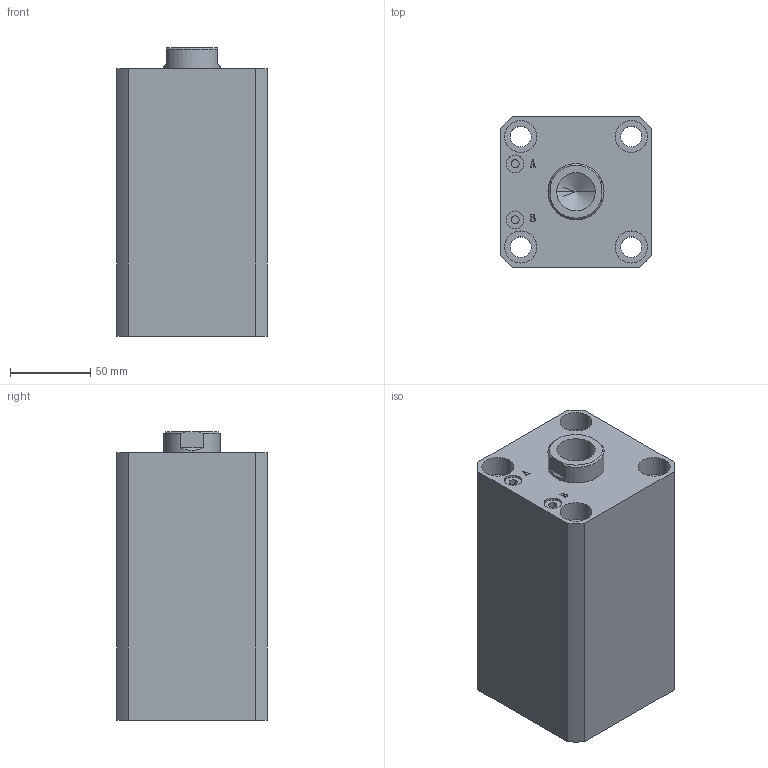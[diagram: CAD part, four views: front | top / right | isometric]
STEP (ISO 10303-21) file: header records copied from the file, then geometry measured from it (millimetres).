
FILE_DESCRIPTION (( 'STEP AP203' ), '1' );
FILE_NAME ('HTB-SDMA63-100N.STEP', '2019-10-08T01:17:45', ( '微软用户' ), ( '微软中国' ), 'SwSTEP 2.0', 'SolidWorks 2012', '' );
FILE_SCHEMA (( 'CONFIG_CONTROL_DESIGN' ));
Length unit declared in the file: millimetre
Products named in the file (3): HTB-SDMA63-100掛极; HTB-SDMA63-100N; HTB-SDMA63-100N活塞杆
Assembly tree (2 placements, depth 2):
  HTB-SDMA63-100N
    HTB-SDMA63-100掛极
    HTB-SDMA63-100N活塞杆
Bounding box: 94 x 94 x 180 mm (x, y, z)
Volume: 1128433.2 mm3; surface area: 166437.3 mm2
Topology: 2 solids, 2 shells, 137 faces, 331 edges, 217 vertices
Faces by surface type: plane 65, cylinder 46, bspline 16, torus 6, cone 4
Entity records: 5070 total; most frequent: CARTESIAN_POINT 1576, ORIENTED_EDGE 658, DIRECTION 647, EDGE_CURVE 329, AXIS2_PLACEMENT_3D 232, VERTEX_POINT 217, VECTOR 183, LINE 183
